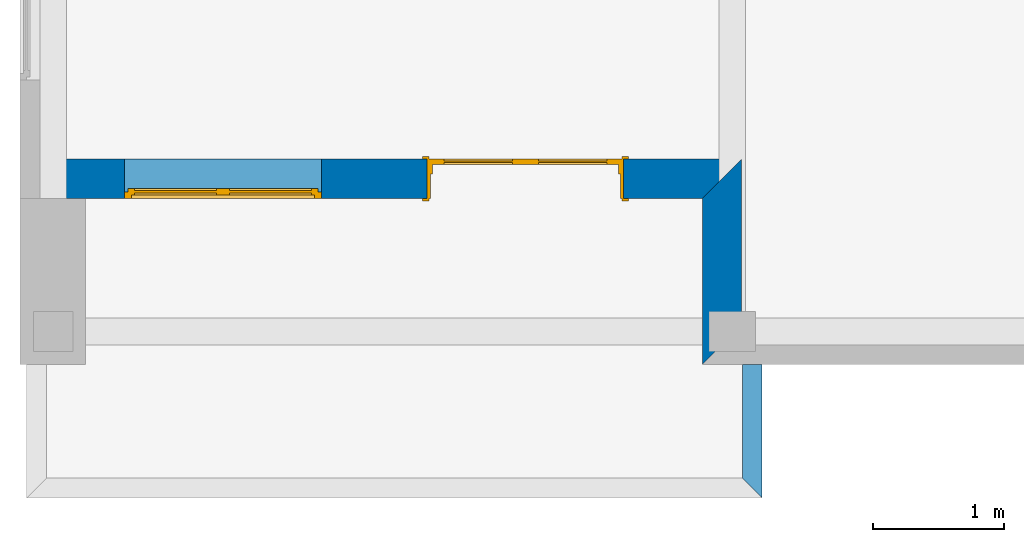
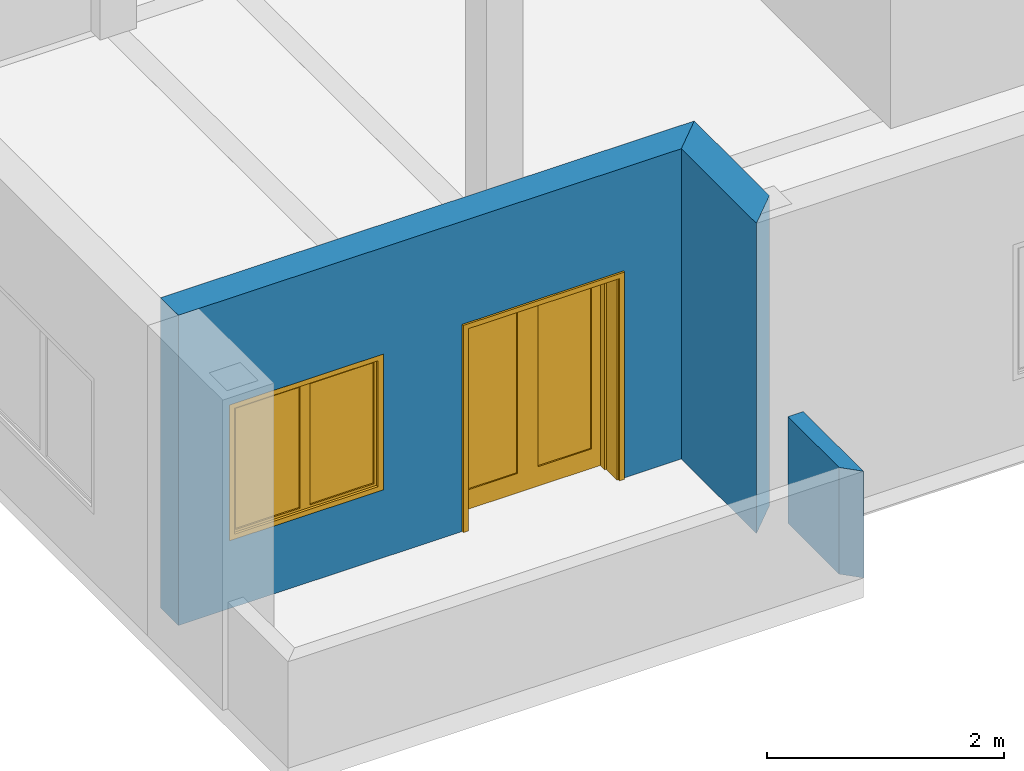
# One storey, part 2 of 6: 3 walls, 1 door, 1 window, 2 openings.
"""IFC2X3 building model written with IfcOpenShell, lengths in millimetres."""

from ifc_helpers import new_model, entity, si_unit, converted_unit, direction, frame, origin_with_axes, origin_2d_with_axis, place, context, subcontext, project, spatial, polyline, rectangle, outline, extrude, faceted_brep, source, transform, mapped, material, layer, layer_set, layer_usage, type_object, element, fill, save


model = new_model("IFC2X3")

# Units and contexts
model_context = context("Model", 3, precision=1e-05, world=origin_with_axes(), true_north=direction((0.0, 1.0)))
body_context = subcontext(model_context, "Body", "Model", "MODEL_VIEW")
ifc_project = project(units=[si_unit("LENGTHUNIT", "METRE", prefix="MILLI"), si_unit("AREAUNIT", "SQUARE_METRE"), si_unit("VOLUMEUNIT", "CUBIC_METRE"), converted_unit("PLANEANGLEUNIT", "DEGREE", entity("IfcPlaneAngleMeasure", 0.017453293), si_unit("PLANEANGLEUNIT", "RADIAN"), dimensions=[0, 0, 0, 0, 0, 0, 0]), si_unit("SOLIDANGLEUNIT", "STERADIAN"), si_unit("MASSUNIT", "GRAM"), si_unit("TIMEUNIT", "SECOND"), si_unit("THERMODYNAMICTEMPERATUREUNIT", "DEGREE_CELSIUS"), si_unit("LUMINOUSINTENSITYUNIT", "LUMEN")], contexts=[model_context])

# Site, building, storey
site_placement = place(None, origin_with_axes())
site = spatial("IfcSite", under=ifc_project, at=site_placement, Name="Sitio", CompositionType="ELEMENT")
building_placement = place(site_placement, origin_with_axes())
building = spatial("IfcBuilding", under=site, at=building_placement, Name="Ejemplo_StruBIM", CompositionType="ELEMENT")
storey_placement = place(building_placement, frame((0.0, 0.0, 9601.2), z_axis=(0.0, 0.0, 1.0), x_axis=(1.0, 0.0, 0.0)))
storey = spatial("IfcBuildingStorey", under=building, at=storey_placement, Name="Third floor", CompositionType="ELEMENT", Elevation=9601.2)

# Wall, openings, door, window
ifc_material_1 = material(Name="Bloque mampostería")
ifc_layer_1 = layer(ifc_material_1, 300.0, ventilated="UNKNOWN")
ifc_layer_set_1 = layer_set([ifc_layer_1], Name="Bloque mampostería 300")
ifc_layer_usage_1 = layer_usage(ifc_layer_set_1, "AXIS2", "POSITIVE", 0.0)
wall_type_1 = type_object("IfcWallType", Name="Bloque mampostería 11 3/4\"", PredefinedType="NOTDEFINED")
wall_1_placement = place(storey_placement, frame((-254.0, 1016.0, 0.0), z_axis=(0.0, 0.0, 1.0), x_axis=(1.0, 0.0, 0.0)))
wall_1 = element("IfcWallStandardCase", 1, at=wall_1_placement, inside=storey, type_object=wall_type_1, material=ifc_layer_usage_1, Name="Muro-014", context=body_context, shape_type="SweptSolid", body=[
    extrude(outline(polyline([(300.0, 0.0), (5207.0, 0.0), (5507.0, 300.0), (300.0, 300.0), (300.0, 0.0)])), origin_with_axes(), (0.0, 0.0, 1.0), 3200.4),
])
opening_1_placement = place(wall_1_placement, frame((1549.4, 0.0, 700.0), z_axis=(0.0, 0.0, 1.0), x_axis=(1.0, 0.0, 0.0)))
opening_1 = element("IfcOpeningElement", 2, at=opening_1_placement, cuts=wall_1, Name="V01", context=body_context, shape_type="SweptSolid", body=[
    extrude(rectangle(XDim=1500.0, YDim=1400.0, at=origin_2d_with_axis()), frame((0.0, 300.0, 700.0), z_axis=(0.0, 1.0, 0.0), x_axis=(1.0, 0.0, 0.0)), (0.0, 0.0, -1.0), 300.0),
])
opening_2_placement = place(wall_1_placement, frame((3857.0, 0.0, 0.0), z_axis=(0.0, 0.0, 1.0), x_axis=(1.0, 0.0, 0.0)))
opening_2 = element("IfcOpeningElement", 3, at=opening_2_placement, cuts=wall_1, Name="P04", context=body_context, shape_type="SweptSolid", body=[
    extrude(rectangle(XDim=1500.0, YDim=2100.0, at=origin_2d_with_axis()), frame((0.0, 0.0, 1050.0), z_axis=(0.0, -1.0, 0.0), x_axis=(1.0, 0.0, 0.0)), (0.0, 0.0, -1.0), 300.0),
    extrude(rectangle(XDim=1574.0, YDim=2137.0, at=origin_2d_with_axis()), frame((0.0, 0.0, 1068.5), z_axis=(0.0, -1.0, 0.0), x_axis=(1.0, 0.0, 0.0)), (0.0, 0.0, 1.0), 300.0),
    extrude(rectangle(XDim=1574.0, YDim=2137.0, at=origin_2d_with_axis()), frame((0.0, 300.0, 1068.5), z_axis=(0.0, 1.0, 0.0), x_axis=(1.0, 0.0, 0.0)), (0.0, 0.0, 1.0), 300.0),
])
ifc_material_2 = material(Name="Fondo")
door_style = type_object("IfcDoorStyle", Name="Puerta Doble 16", ConstructionType="NOTDEFINED", OperationType="SINGLE_SWING_LEFT", ParameterTakesPrecedence=False, Sizeable=False)
shared_shape_1 = source(origin_with_axes(), body_context, "Body", "Brep", [
    faceted_brep([(750.0, -115.0, 0.0), (750.0, -300.0, 0.0), (725.0, -300.0, 0.0), (725.0, -115.0, 0.0), (750.0, -115.0, 2100.0), (750.0, -300.0, 2100.0), (725.0, -300.0, 2075.0), (725.0, -115.0, 2075.0)], [[[0, 1, 2, 3]], [[4, 5, 1, 0]], [[1, 5, 6, 2]], [[3, 2, 6, 7]], [[0, 3, 7, 4]], [[7, 6, 5, 4]]]),
    faceted_brep([(-750.0, -115.0, 2100.0), (-750.0, -300.0, 2100.0), (-725.0, -300.0, 2075.0), (-725.0, -115.0, 2075.0), (-750.0, -115.0, 0.0), (-750.0, -300.0, 0.0), (-725.0, -300.0, 0.0), (-725.0, -115.0, 0.0)], [[[0, 1, 2, 3]], [[4, 5, 1, 0]], [[1, 5, 6, 2]], [[3, 2, 6, 7]], [[0, 3, 7, 4]], [[7, 6, 5, 4]]]),
    faceted_brep([(725.0, -115.0, 2075.0), (725.0, -300.0, 2075.0), (-725.0, -300.0, 2075.0), (-725.0, -115.0, 2075.0), (750.0, -115.0, 2100.0), (750.0, -300.0, 2100.0), (-750.0, -300.0, 2100.0), (-750.0, -115.0, 2100.0)], [[[0, 1, 2, 3]], [[4, 5, 1, 0]], [[1, 5, 6, 2]], [[3, 2, 6, 7]], [[0, 3, 7, 4]], [[7, 6, 5, 4]]]),
    faceted_brep([(787.0, -319.0, 0.0), (737.0, -319.0, 0.0), (737.0, -300.0, 0.0), (787.0, -300.0, 0.0), (787.0, -319.0, 2137.0), (737.0, -319.0, 2087.0), (737.0, -300.0, 2087.0), (787.0, -300.0, 2137.0)], [[[0, 1, 2, 3]], [[0, 4, 5, 1]], [[1, 5, 6, 2]], [[3, 2, 6, 7]], [[4, 0, 3, 7]], [[5, 4, 7, 6]]]),
    faceted_brep([(-787.0, -319.0, 2137.0), (-737.0, -319.0, 2087.0), (-737.0, -300.0, 2087.0), (-787.0, -300.0, 2137.0), (-787.0, -319.0, 0.0), (-737.0, -319.0, 0.0), (-737.0, -300.0, 0.0), (-787.0, -300.0, 0.0)], [[[0, 1, 2, 3]], [[0, 4, 5, 1]], [[1, 5, 6, 2]], [[3, 2, 6, 7]], [[4, 0, 3, 7]], [[5, 4, 7, 6]]]),
    faceted_brep([(787.0, -319.0, 2137.0), (737.0, -319.0, 2087.0), (737.0, -300.0, 2087.0), (787.0, -300.0, 2137.0), (-787.0, -319.0, 2137.0), (-737.0, -319.0, 2087.0), (-737.0, -300.0, 2087.0), (-787.0, -300.0, 2137.0)], [[[0, 1, 2, 3]], [[0, 4, 5, 1]], [[1, 5, 6, 2]], [[3, 2, 6, 7]], [[4, 0, 3, 7]], [[5, 4, 7, 6]]]),
    faceted_brep([(787.0, 19.0, 0.0), (787.0, 0.0, 0.0), (737.0, 0.0, 0.0), (737.0, 19.0, 0.0), (787.0, 19.0, 2137.0), (787.0, 0.0, 2137.0), (737.0, 0.0, 2087.0), (737.0, 19.0, 2087.0)], [[[0, 1, 2, 3]], [[4, 5, 1, 0]], [[1, 5, 6, 2]], [[3, 2, 6, 7]], [[0, 3, 7, 4]], [[7, 6, 5, 4]]]),
    faceted_brep([(-787.0, 19.0, 2137.0), (-787.0, 0.0, 2137.0), (-737.0, 0.0, 2087.0), (-737.0, 19.0, 2087.0), (-787.0, 19.0, 0.0), (-787.0, 0.0, 0.0), (-737.0, 0.0, 0.0), (-737.0, 19.0, 0.0)], [[[0, 1, 2, 3]], [[4, 5, 1, 0]], [[1, 5, 6, 2]], [[3, 2, 6, 7]], [[0, 3, 7, 4]], [[7, 6, 5, 4]]]),
    faceted_brep([(787.0, 19.0, 2137.0), (787.0, 0.0, 2137.0), (737.0, 0.0, 2087.0), (737.0, 19.0, 2087.0), (-787.0, 19.0, 2137.0), (-787.0, 0.0, 2137.0), (-737.0, 0.0, 2087.0), (-737.0, 19.0, 2087.0)], [[[0, 1, 2, 3]], [[4, 5, 1, 0]], [[1, 5, 6, 2]], [[3, 2, 6, 7]], [[0, 3, 7, 4]], [[7, 6, 5, 4]]]),
    faceted_brep([(710.0, -40.0, 0.0), (710.0, -115.0, 0.0), (710.0, -115.0, 2060.0), (710.0, -40.0, 2060.0), (722.0, -40.0, 0.0), (722.0, 2.2351741e-07, 0.0), (750.0, 2.2351741e-07, -3.8951635e-07), (750.0, -115.0, 0.0), (750.0, -115.0, 2060.0), (722.0, -40.0, 2060.0), (750.0, 2.2351741e-07, 2060.0), (722.0, 2.2351741e-07, 2060.0)], [[[0, 1, 2, 3]], [[4, 5, 6, 7, 1, 0]], [[8, 2, 1, 7]], [[9, 3, 2, 8, 10, 11]], [[9, 4, 0, 3]], [[11, 5, 4, 9]], [[11, 10, 6, 5]], [[7, 6, 10, 8]]]),
    faceted_brep([(-722.0, -40.0, 2060.0), (-722.0, 2.2351741e-07, 2060.0), (-750.0, 2.2351741e-07, 2060.0), (-750.0, -115.0, 2060.0), (-710.0, -115.0, 2060.0), (-710.0, -40.0, 2060.0), (-722.0, -40.0, 0.0), (-722.0, 2.2351741e-07, 0.0), (-750.0, 2.2351741e-07, -3.8951635e-07), (-750.0, -115.0, 0.0), (-710.0, -115.0, 0.0), (-710.0, -40.0, 0.0)], [[[0, 1, 2, 3, 4, 5]], [[0, 6, 7, 1]], [[7, 8, 2, 1]], [[3, 2, 8, 9]], [[10, 4, 3, 9]], [[5, 4, 10, 11]], [[5, 11, 6, 0]], [[6, 11, 10, 9, 8, 7]]]),
    faceted_brep([(722.0, 2.2351741e-07, 2072.0), (-722.0, 2.2351741e-07, 2072.0), (-722.0, 2.2351741e-07, 2060.0), (-750.0, 2.2351741e-07, 2060.0), (-750.0, 2.2351741e-07, 2100.0), (750.0, 2.2351741e-07, 2100.0), (750.0, 2.2351741e-07, 2060.0), (722.0, 2.2351741e-07, 2060.0), (722.0, -40.0, 2072.0), (-722.0, -40.0, 2072.0), (-722.0, -40.0, 2060.0), (-710.0, -40.0, 2060.0), (-710.0, -115.0, 2060.0), (-750.0, -115.0, 2060.0), (-750.0, -115.0, 2100.0), (750.0, -115.0, 2100.0), (750.0, -115.0, 2060.0), (722.0, -40.0, 2060.0), (710.0, -115.0, 2060.0), (710.0, -40.0, 2060.0)], [[[0, 1, 2, 3, 4, 5, 6, 7]], [[0, 8, 9, 1]], [[1, 9, 10, 2]], [[10, 11, 12, 13, 3, 2]], [[14, 4, 3, 13]], [[15, 5, 4, 14]], [[16, 6, 5, 15]], [[17, 7, 6, 16, 18, 19]], [[7, 17, 8, 0]], [[10, 9, 8, 17, 19, 11]], [[19, 18, 12, 11]], [[14, 13, 12, 18, 16, 15]]]),
    faceted_brep([(-722.0, 0.0, 200.0), (-622.0, 0.0, 200.0), (-622.0, -40.0, 200.0), (-722.0, -40.0, 200.0), (-722.0, 0.0, 1972.0), (-622.0, 0.0, 1972.0), (-622.0, -40.0, 1972.0), (-722.0, -40.0, 1972.0)], [[[0, 1, 2, 3]], [[0, 4, 5, 1]], [[1, 5, 6, 2]], [[3, 2, 6, 7]], [[4, 0, 3, 7]], [[5, 4, 7, 6]]]),
    faceted_brep([(0.0, 0.0, 200.0), (0.0, 0.0, 1972.0), (0.0, -40.0, 1972.0), (0.0, -40.0, 200.0), (-100.0, 0.0, 200.0), (-100.0, 0.0, 1972.0), (-100.0, -40.0, 1972.0), (-100.0, -40.0, 200.0)], [[[0, 1, 2, 3]], [[0, 4, 5, 1]], [[1, 5, 6, 2]], [[3, 2, 6, 7]], [[4, 0, 3, 7]], [[5, 4, 7, 6]]]),
    faceted_brep([(-722.0, 0.0, 0.0), (0.0, 0.0, 0.0), (0.0, -40.0, 0.0), (-722.0, -40.0, 0.0), (-722.0, 0.0, 200.0), (-622.0, 0.0, 200.0), (-100.0, 0.0, 200.0), (0.0, 0.0, 200.0), (0.0, -40.0, 200.0), (-100.0, -40.0, 200.0), (-622.0, -40.0, 200.0), (-722.0, -40.0, 200.0)], [[[0, 1, 2, 3]], [[0, 4, 5, 6, 7, 1]], [[1, 7, 8, 2]], [[3, 2, 8, 9, 10, 11]], [[4, 0, 3, 11]], [[5, 4, 11, 10]], [[6, 5, 10, 9]], [[7, 6, 9, 8]]]),
    faceted_brep([(-722.0, 0.0, 2072.0), (-722.0, 0.0, 1972.0), (-722.0, -40.0, 1972.0), (-722.0, -40.0, 2072.0), (0.0, 0.0, 2072.0), (0.0, 0.0, 1972.0), (-100.0, 0.0, 1972.0), (-622.0, 0.0, 1972.0), (-622.0, -40.0, 1972.0), (-100.0, -40.0, 1972.0), (0.0, -40.0, 1972.0), (0.0, -40.0, 2072.0)], [[[0, 1, 2, 3]], [[0, 4, 5, 6, 7, 1]], [[1, 7, 8, 2]], [[3, 2, 8, 9, 10, 11]], [[4, 0, 3, 11]], [[5, 4, 11, 10]], [[6, 5, 10, 9]], [[7, 6, 9, 8]]]),
    faceted_brep([(-622.0, -14.0, 200.0), (-100.0, -14.0, 200.0), (-100.0, -26.0, 200.0), (-622.0, -26.0, 200.0), (-622.0, -14.0, 1972.0), (-100.0, -14.0, 1972.0), (-100.0, -26.0, 1972.0), (-622.0, -26.0, 1972.0)], [[[0, 1, 2, 3]], [[0, 4, 5, 1]], [[1, 5, 6, 2]], [[3, 2, 6, 7]], [[4, 0, 3, 7]], [[5, 4, 7, 6]]]),
    faceted_brep([(722.0, 0.0, 200.0), (722.0, -40.0, 200.0), (622.0, -40.0, 200.0), (622.0, 0.0, 200.0), (722.0, 0.0, 1972.0), (722.0, -40.0, 1972.0), (622.0, -40.0, 1972.0), (622.0, 0.0, 1972.0)], [[[0, 1, 2, 3]], [[4, 5, 1, 0]], [[1, 5, 6, 2]], [[3, 2, 6, 7]], [[0, 3, 7, 4]], [[7, 6, 5, 4]]]),
    faceted_brep([(0.0, 0.0, 200.0), (0.0, -40.0, 200.0), (0.0, -40.0, 1972.0), (0.0, 0.0, 1972.0), (100.0, 0.0, 200.0), (100.0, -40.0, 200.0), (100.0, -40.0, 1972.0), (100.0, 0.0, 1972.0)], [[[0, 1, 2, 3]], [[4, 5, 1, 0]], [[1, 5, 6, 2]], [[3, 2, 6, 7]], [[0, 3, 7, 4]], [[7, 6, 5, 4]]]),
    faceted_brep([(722.0, 0.0, 0.0), (722.0, -40.0, 0.0), (0.0, -40.0, 0.0), (0.0, 0.0, 0.0), (722.0, 0.0, 200.0), (722.0, -40.0, 200.0), (622.0, -40.0, 200.0), (100.0, -40.0, 200.0), (0.0, -40.0, 200.0), (0.0, 0.0, 200.0), (100.0, 0.0, 200.0), (622.0, 0.0, 200.0)], [[[0, 1, 2, 3]], [[4, 5, 1, 0]], [[1, 5, 6, 7, 8, 2]], [[3, 2, 8, 9]], [[0, 3, 9, 10, 11, 4]], [[11, 6, 5, 4]], [[10, 7, 6, 11]], [[9, 8, 7, 10]]]),
    faceted_brep([(722.0, 0.0, 2072.0), (722.0, -40.0, 2072.0), (722.0, -40.0, 1972.0), (722.0, 0.0, 1972.0), (0.0, 0.0, 2072.0), (0.0, -40.0, 2072.0), (0.0, -40.0, 1972.0), (100.0, -40.0, 1972.0), (622.0, -40.0, 1972.0), (622.0, 0.0, 1972.0), (100.0, 0.0, 1972.0), (0.0, 0.0, 1972.0)], [[[0, 1, 2, 3]], [[4, 5, 1, 0]], [[1, 5, 6, 7, 8, 2]], [[3, 2, 8, 9]], [[0, 3, 9, 10, 11, 4]], [[11, 6, 5, 4]], [[10, 7, 6, 11]], [[9, 8, 7, 10]]]),
    faceted_brep([(622.0, -14.0, 200.0), (622.0, -26.0, 200.0), (100.0, -26.0, 200.0), (100.0, -14.0, 200.0), (622.0, -14.0, 1972.0), (622.0, -26.0, 1972.0), (100.0, -26.0, 1972.0), (100.0, -14.0, 1972.0)], [[[0, 1, 2, 3]], [[4, 5, 1, 0]], [[1, 5, 6, 2]], [[3, 2, 6, 7]], [[0, 3, 7, 4]], [[7, 6, 5, 4]]]),
])
door_placement = place(opening_2_placement, frame((-750.0, 0.0, 0.0), z_axis=(0.0, 0.0, 1.0), x_axis=(1.0, 0.0, 0.0)))
door = element("IfcDoor", 4, at=door_placement, inside=storey, type_object=door_style, material=ifc_material_2, Name="P04", OverallHeight=2100.0, OverallWidth=1500.0, context=body_context, shape_type="MappedRepresentation", body=[
    mapped(shared_shape_1, transform((750.0, 300.0, 0.0))),
])
fill(opening_2, door)
window_style = type_object("IfcWindowStyle", Name="Ventana Doble Hoja 16", ConstructionType="NOTDEFINED", OperationType="DOUBLE_PANEL_HORIZONTAL", ParameterTakesPrecedence=False, Sizeable=False)
shared_shape_2 = source(origin_with_axes(), body_context, "Body", "Brep", [
    faceted_brep([(725.0, -50.0, 1350.0), (750.0, -50.0, 1350.0), (750.0, 0.0, 1350.0), (700.0, 0.0, 1350.0), (700.0, -25.0, 1350.0), (725.0, -25.0, 1350.0), (725.0, -50.0, 50.0), (750.0, -50.0, 50.0), (750.0, 0.0, 50.0), (700.0, 0.0, 50.0), (700.0, -25.0, 50.0), (725.0, -25.0, 50.0)], [[[0, 1, 2, 3, 4, 5]], [[6, 7, 1, 0]], [[1, 7, 8, 2]], [[2, 8, 9, 3]], [[4, 3, 9, 10]], [[10, 11, 5, 4]], [[5, 11, 6, 0]], [[11, 10, 9, 8, 7, 6]]]),
    faceted_brep([(-700.0, -25.0, 1350.0), (-700.0, 0.0, 1350.0), (-750.0, 0.0, 1350.0), (-750.0, -50.0, 1350.0), (-725.0, -50.0, 1350.0), (-725.0, -25.0, 1350.0), (-700.0, -25.0, 50.0), (-700.0, 0.0, 50.0), (-750.0, 0.0, 50.0), (-750.0, -50.0, 50.0), (-725.0, -50.0, 50.0), (-725.0, -25.0, 50.0)], [[[0, 1, 2, 3, 4, 5]], [[6, 7, 1, 0]], [[8, 2, 1, 7]], [[9, 3, 2, 8]], [[4, 3, 9, 10]], [[10, 11, 5, 4]], [[5, 11, 6, 0]], [[11, 10, 9, 8, 7, 6]]]),
    faceted_brep([(-700.0, -25.0, 50.0), (-700.0, 0.0, 50.0), (-750.0, 0.0, 50.0), (-750.0, -50.0, 50.0), (-725.0, -50.0, 50.0), (-725.0, -25.0, 50.0), (700.0, -25.0, 50.0), (700.0, 0.0, 50.0), (750.0, 0.0, 50.0), (750.0, 0.0, 0.0), (-750.0, 0.0, 0.0), (-750.0, -50.0, 0.0), (725.0, -50.0, 25.0), (-725.0, -50.0, 25.0), (750.0, -50.0, 0.0), (750.0, -50.0, 50.0), (725.0, -50.0, 50.0), (-725.0, -25.0, 25.0), (725.0, -25.0, 25.0), (725.0, -25.0, 50.0)], [[[0, 1, 2, 3, 4, 5]], [[6, 7, 1, 0]], [[8, 9, 10, 2, 1, 7]], [[11, 3, 2, 10]], [[12, 13, 4, 3, 11, 14, 15, 16]], [[13, 17, 5, 4]], [[5, 17, 18, 19, 6, 0]], [[19, 16, 15, 8, 7, 6]], [[15, 14, 9, 8]], [[14, 11, 10, 9]], [[12, 18, 17, 13]], [[19, 18, 12, 16]]]),
    faceted_brep([(725.0, -50.0, 1350.0), (750.0, -50.0, 1350.0), (750.0, -50.0, 1400.0), (-750.0, -50.0, 1400.0), (-750.0, -50.0, 1350.0), (-725.0, -50.0, 1350.0), (-725.0, -50.0, 1375.0), (725.0, -50.0, 1375.0), (725.0, -25.0, 1350.0), (700.0, -25.0, 1350.0), (700.0, 0.0, 1350.0), (750.0, 0.0, 1350.0), (750.0, 0.0, 1400.0), (-750.0, 0.0, 1400.0), (-750.0, 0.0, 1350.0), (-725.0, -25.0, 1350.0), (-700.0, 0.0, 1350.0), (-700.0, -25.0, 1350.0), (-725.0, -25.0, 1375.0), (725.0, -25.0, 1375.0)], [[[0, 1, 2, 3, 4, 5, 6, 7]], [[8, 9, 10, 11, 1, 0]], [[2, 1, 11, 12]], [[3, 2, 12, 13]], [[4, 3, 13, 14]], [[15, 5, 4, 14, 16, 17]], [[5, 15, 18, 6]], [[6, 18, 19, 7]], [[7, 19, 8, 0]], [[17, 9, 8, 19, 18, 15]], [[17, 16, 10, 9]], [[14, 13, 12, 11, 10, 16]]]),
    faceted_brep([(675.0, -25.0, 1325.0), (675.0, -75.0, 1325.0), (725.0, -75.0, 1325.0), (725.0, -25.0, 1325.0), (675.0, -25.0, 75.0), (675.0, -75.0, 75.0), (725.0, -75.0, 75.0), (725.0, -25.0, 75.0)], [[[0, 1, 2, 3]], [[4, 5, 1, 0]], [[1, 5, 6, 2]], [[3, 2, 6, 7]], [[0, 3, 7, 4]], [[7, 6, 5, 4]]]),
    faceted_brep([(50.0, -25.0, 75.0), (50.0, -75.0, 75.0), (0.0, -75.0, 75.0), (0.0, -25.0, 75.0), (50.0, -25.0, 1325.0), (50.0, -75.0, 1325.0), (0.0, -75.0, 1325.0), (0.0, -25.0, 1325.0)], [[[0, 1, 2, 3]], [[4, 5, 1, 0]], [[1, 5, 6, 2]], [[3, 2, 6, 7]], [[0, 3, 7, 4]], [[7, 6, 5, 4]]]),
    faceted_brep([(0.0, -25.0, 25.0), (0.0, -75.0, 25.0), (0.0, -75.0, 75.0), (0.0, -25.0, 75.0), (725.0, -25.0, 25.0), (725.0, -75.0, 25.0), (725.0, -75.0, 75.0), (675.0, -75.0, 75.0), (50.0, -75.0, 75.0), (50.0, -25.0, 75.0), (675.0, -25.0, 75.0), (725.0, -25.0, 75.0)], [[[0, 1, 2, 3]], [[4, 5, 1, 0]], [[1, 5, 6, 7, 8, 2]], [[3, 2, 8, 9]], [[0, 3, 9, 10, 11, 4]], [[11, 6, 5, 4]], [[10, 7, 6, 11]], [[9, 8, 7, 10]]]),
    faceted_brep([(725.0, -25.0, 1375.0), (725.0, -75.0, 1375.0), (725.0, -75.0, 1325.0), (725.0, -25.0, 1325.0), (0.0, -25.0, 1375.0), (0.0, -75.0, 1375.0), (0.0, -75.0, 1325.0), (50.0, -75.0, 1325.0), (675.0, -75.0, 1325.0), (675.0, -25.0, 1325.0), (50.0, -25.0, 1325.0), (0.0, -25.0, 1325.0)], [[[0, 1, 2, 3]], [[4, 5, 1, 0]], [[1, 5, 6, 7, 8, 2]], [[3, 2, 8, 9]], [[0, 3, 9, 10, 11, 4]], [[11, 6, 5, 4]], [[10, 7, 6, 11]], [[9, 8, 7, 10]]]),
    faceted_brep([(675.0, -40.0, 75.0), (675.0, -60.0, 75.0), (50.0, -60.0, 75.0), (50.0, -40.0, 75.0), (675.0, -40.0, 1325.0), (675.0, -60.0, 1325.0), (50.0, -60.0, 1325.0), (50.0, -40.0, 1325.0)], [[[0, 1, 2, 3]], [[4, 5, 1, 0]], [[1, 5, 6, 2]], [[3, 2, 6, 7]], [[0, 3, 7, 4]], [[7, 6, 5, 4]]]),
    faceted_brep([(-50.0, -25.0, 1325.0), (-50.0, -75.0, 1325.0), (0.0, -75.0, 1325.0), (0.0, -25.0, 1325.0), (-50.0, -25.0, 75.0), (-50.0, -75.0, 75.0), (0.0, -75.0, 75.0), (0.0, -25.0, 75.0)], [[[0, 1, 2, 3]], [[4, 5, 1, 0]], [[1, 5, 6, 2]], [[3, 2, 6, 7]], [[0, 3, 7, 4]], [[7, 6, 5, 4]]]),
    faceted_brep([(-675.0, -25.0, 75.0), (-675.0, -75.0, 75.0), (-725.0, -75.0, 75.0), (-725.0, -25.0, 75.0), (-675.0, -25.0, 1325.0), (-675.0, -75.0, 1325.0), (-725.0, -75.0, 1325.0), (-725.0, -25.0, 1325.0)], [[[0, 1, 2, 3]], [[4, 5, 1, 0]], [[1, 5, 6, 2]], [[3, 2, 6, 7]], [[0, 3, 7, 4]], [[7, 6, 5, 4]]]),
    faceted_brep([(-725.0, -25.0, 25.0), (-725.0, -75.0, 25.0), (-725.0, -75.0, 75.0), (-725.0, -25.0, 75.0), (0.0, -25.0, 25.0), (0.0, -75.0, 25.0), (0.0, -75.0, 75.0), (-50.0, -75.0, 75.0), (-675.0, -75.0, 75.0), (-675.0, -25.0, 75.0), (-50.0, -25.0, 75.0), (0.0, -25.0, 75.0)], [[[0, 1, 2, 3]], [[4, 5, 1, 0]], [[1, 5, 6, 7, 8, 2]], [[3, 2, 8, 9]], [[0, 3, 9, 10, 11, 4]], [[11, 6, 5, 4]], [[10, 7, 6, 11]], [[9, 8, 7, 10]]]),
    faceted_brep([(0.0, -25.0, 1375.0), (0.0, -75.0, 1375.0), (0.0, -75.0, 1325.0), (0.0, -25.0, 1325.0), (-725.0, -25.0, 1375.0), (-725.0, -75.0, 1375.0), (-725.0, -75.0, 1325.0), (-675.0, -75.0, 1325.0), (-50.0, -75.0, 1325.0), (-50.0, -25.0, 1325.0), (-675.0, -25.0, 1325.0), (-725.0, -25.0, 1325.0)], [[[0, 1, 2, 3]], [[4, 5, 1, 0]], [[1, 5, 6, 7, 8, 2]], [[3, 2, 8, 9]], [[0, 3, 9, 10, 11, 4]], [[11, 6, 5, 4]], [[10, 7, 6, 11]], [[9, 8, 7, 10]]]),
    faceted_brep([(-50.0, -40.0, 75.0), (-50.0, -60.0, 75.0), (-675.0, -60.0, 75.0), (-675.0, -40.0, 75.0), (-50.0, -40.0, 1325.0), (-50.0, -60.0, 1325.0), (-675.0, -60.0, 1325.0), (-675.0, -40.0, 1325.0)], [[[0, 1, 2, 3]], [[4, 5, 1, 0]], [[1, 5, 6, 2]], [[3, 2, 6, 7]], [[0, 3, 7, 4]], [[7, 6, 5, 4]]]),
])
window_placement = place(opening_1_placement, frame((750.0, 0.0, 0.0), z_axis=(0.0, 0.0, 1.0), x_axis=(-1.0, 0.0, 0.0)))
window = element("IfcWindow", 5, at=window_placement, inside=storey, type_object=window_style, material=ifc_material_2, Name="V01", OverallHeight=1400.0, OverallWidth=1500.0, context=body_context, shape_type="MappedRepresentation", body=[
    mapped(shared_shape_2, transform((750.0, 0.0, 0.0))),
])
fill(opening_1, window)

# Walls
ifc_layer_usage_2 = layer_usage(ifc_layer_set_1, "AXIS2", "POSITIVE", 0.0)
wall_2_placement = place(storey_placement, frame((4953.0, 1016.0, 0.0), z_axis=(0.0, 0.0, 1.0), x_axis=(0.0, -1.0, 0.0)))
element("IfcWallStandardCase", 6, at=wall_2_placement, inside=storey, type_object=wall_type_1, material=ifc_layer_usage_2, Name="Muro-015", context=body_context, shape_type="SweptSolid", body=[
    extrude(outline(polyline([(0.0, 0.0), (1270.0, 0.0), (970.0, 300.0), (-300.0, 300.0), (0.0, 0.0)])), origin_with_axes(), (0.0, 0.0, 1.0), 3200.4),
])
ifc_layer_2 = layer(ifc_material_1, 150.0, ventilated="UNKNOWN")
ifc_layer_set_2 = layer_set([ifc_layer_2], Name="Bloque mampostería 150")
ifc_layer_usage_3 = layer_usage(ifc_layer_set_2, "AXIS2", "NEGATIVE", 0.0)
wall_type_2 = type_object("IfcWallType", Name="Bloque mampostería 6\"", PredefinedType="NOTDEFINED")
wall_3_placement = place(storey_placement, frame((5410.2, -254.0, 0.0), z_axis=(0.0, 0.0, 1.0), x_axis=(0.0, -1.0, 0.0)))
element("IfcWallStandardCase", 7, at=wall_3_placement, inside=storey, type_object=wall_type_2, material=ifc_layer_usage_3, Name="Muro-015", context=body_context, shape_type="SweptSolid", body=[
    extrude(outline(polyline([(0.0, -150.0), (866.0, -150.0), (1016.0, 0.0), (0.0, 0.0), (0.0, -150.0)])), origin_with_axes(), (0.0, 0.0, 1.0), 1100.0),
])

save(model, "model.ifc")
